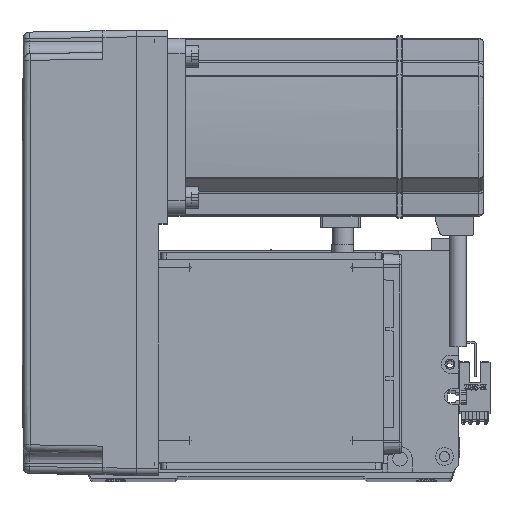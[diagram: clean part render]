
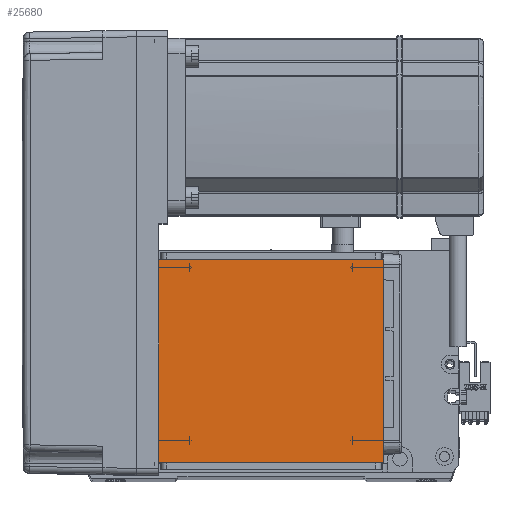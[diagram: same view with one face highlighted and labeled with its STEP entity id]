
A CAD part, top view. The second image highlights one B-rep face of the part: STEP entity #25680.
In plain terms, the highlighted planar face has unit normal (0, 0, 1).
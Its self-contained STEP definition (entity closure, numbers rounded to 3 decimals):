
#9805 = DIRECTION ( 'NONE',  ( 1., 0., 0. ) ) ;
#10564 = VECTOR ( 'NONE', #26275, 1000. ) ;
#13775 = LINE ( 'NONE', #17164, #43392 ) ;
#14029 = EDGE_CURVE ( 'NONE', #23118, #43106, #30548, .T. ) ;
#15495 = LINE ( 'NONE', #26826, #34772 ) ;
#17164 = CARTESIAN_POINT ( 'NONE',  ( -50.5, 122., 115. ) ) ;
#18332 = EDGE_LOOP ( 'NONE', ( #47846, #42291, #45067, #51433 ) ) ;
#22459 = EDGE_CURVE ( 'NONE', #23118, #38937, #56774, .T. ) ;
#22731 = CARTESIAN_POINT ( 'NONE',  ( 0., 0., 115. ) ) ;
#23118 = VERTEX_POINT ( 'NONE', #57322 ) ;
#25680 = ADVANCED_FACE ( 'NONE', ( #44014 ), #48773, .T. ) ;
#26275 = DIRECTION ( 'NONE',  ( 0., 1., 0. ) ) ;
#26826 = CARTESIAN_POINT ( 'NONE',  ( -70.004, 111.5, 115. ) ) ;
#29234 = EDGE_CURVE ( 'NONE', #51596, #43106, #15495, .T. ) ;
#30345 = CARTESIAN_POINT ( 'NONE',  ( 50.5, 122., 115. ) ) ;
#30548 = LINE ( 'NONE', #30345, #10564 ) ;
#31941 = DIRECTION ( 'NONE',  ( 0., 0., 1. ) ) ;
#32867 = AXIS2_PLACEMENT_3D ( 'NONE', #22731, #31941, #9805 ) ;
#34772 = VECTOR ( 'NONE', #48239, 1000. ) ;
#37715 = DIRECTION ( 'NONE',  ( -1., 0., 0. ) ) ;
#38937 = VERTEX_POINT ( 'NONE', #40276 ) ;
#39493 = VECTOR ( 'NONE', #37715, 1000. ) ;
#40276 = CARTESIAN_POINT ( 'NONE',  ( -50.5, 20., 115. ) ) ;
#41718 = CARTESIAN_POINT ( 'NONE',  ( -50.5, 111.5, 115. ) ) ;
#42284 = CARTESIAN_POINT ( 'NONE',  ( 50.5, 111.5, 115. ) ) ;
#42291 = ORIENTED_EDGE ( 'NONE', *, *, #56228, .T. ) ;
#42980 = DIRECTION ( 'NONE',  ( 0., -1., 0. ) ) ;
#43106 = VERTEX_POINT ( 'NONE', #42284 ) ;
#43392 = VECTOR ( 'NONE', #42980, 1000. ) ;
#44014 = FACE_OUTER_BOUND ( 'NONE', #18332, .T. ) ;
#45067 = ORIENTED_EDGE ( 'NONE', *, *, #22459, .F. ) ;
#47846 = ORIENTED_EDGE ( 'NONE', *, *, #29234, .F. ) ;
#48239 = DIRECTION ( 'NONE',  ( 1., 0., 0. ) ) ;
#48773 = PLANE ( 'NONE',  #32867 ) ;
#51433 = ORIENTED_EDGE ( 'NONE', *, *, #14029, .T. ) ;
#51596 = VERTEX_POINT ( 'NONE', #41718 ) ;
#55497 = CARTESIAN_POINT ( 'NONE',  ( -70.004, 20., 115. ) ) ;
#56228 = EDGE_CURVE ( 'NONE', #51596, #38937, #13775, .T. ) ;
#56774 = LINE ( 'NONE', #55497, #39493 ) ;
#57322 = CARTESIAN_POINT ( 'NONE',  ( 50.5, 20., 115. ) ) ;
